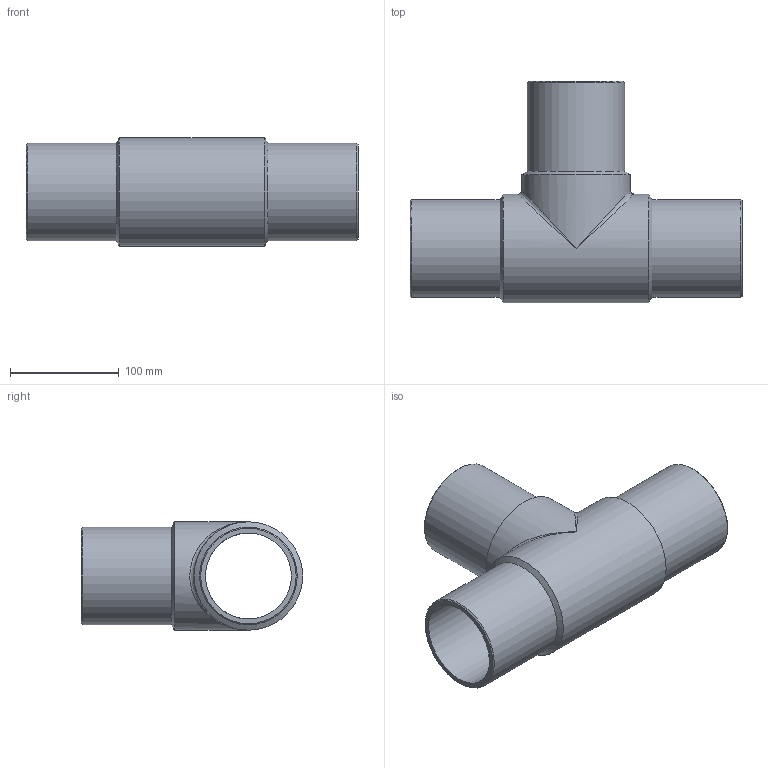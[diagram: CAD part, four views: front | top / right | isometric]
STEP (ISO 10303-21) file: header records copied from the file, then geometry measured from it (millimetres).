
FILE_DESCRIPTION(/* description */ ('Unknown'),/* implementation_level */ '2;1');
FILE_NAME(/* name */ 'TP090B',/* time_stamp */ '2021-08-13T12:44:44+02:00',/* author */ ('Unknown'),/* organization */ ('Unknown'),/* preprocessor_version */ 'ST-DEVELOPER v16.7',/* originating_system */ 'Solid Edge',/* authorisation */ 'Unknown');
FILE_SCHEMA (('AUTOMOTIVE_DESIGN {1 0 10303 214 3 1 1}'));
Length unit declared in the file: millimetre
Products named in the file (1): TP090B
Bounding box: 306 x 204 x 100 mm (x, y, z)
Volume: 800511.8 mm3; surface area: 224592.1 mm2
Topology: 1 solids, 1 shells, 18 faces, 44 edges, 23 vertices
Faces by surface type: cylinder 7, cone 6, plane 3, bspline 2
Full cylindrical faces by diameter (mm): 79.2 x2, 90 x3, 100 x2
Entity records: 504 total; most frequent: CARTESIAN_POINT 147, DIRECTION 76, ORIENTED_EDGE 42, AXIS2_PLACEMENT_3D 38, EDGE_LOOP 36, FACE_BOUND 36, EDGE_CURVE 21, VERTEX_POINT 19
